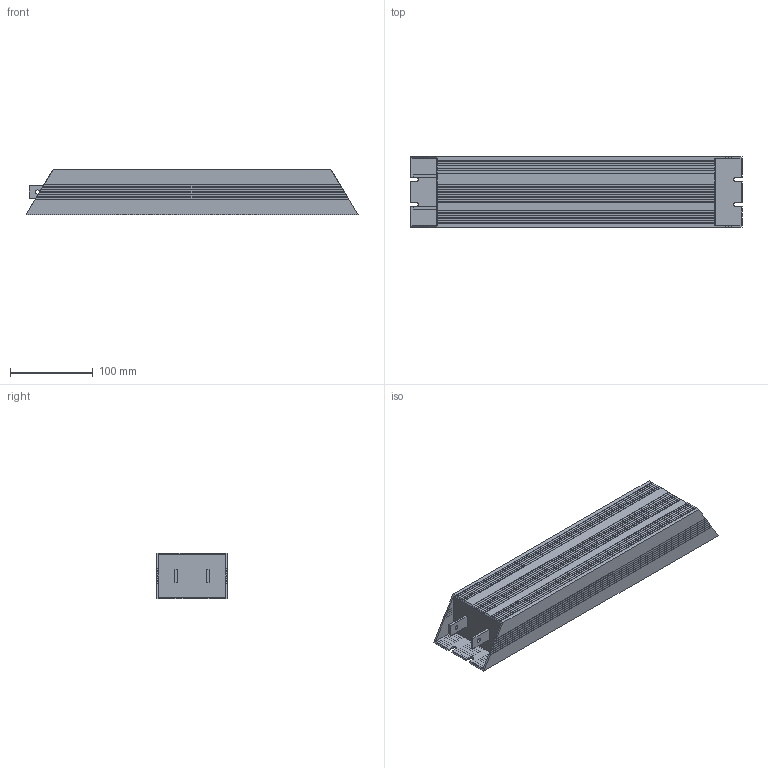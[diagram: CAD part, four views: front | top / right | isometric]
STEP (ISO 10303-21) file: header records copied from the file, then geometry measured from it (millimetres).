
FILE_DESCRIPTION (( 'STEP AP203' ), '1' );
FILE_NAME ('Ðåçèñòîð òîðìîçíîé _ IBRA-40-2500-IP54.STEP', '2025-03-26T12:54:55', ( '' ), ( '' ), 'SwSTEP 2.0', 'SolidWorks 2021', '' );
FILE_SCHEMA (( 'CONFIG_CONTROL_DESIGN' ));
Length unit declared in the file: millimetre
Products named in the file (1): Ðåçèñòîð òîðìîçíîé _ IBRA-40-2500-IP54
Bounding box: 400 x 85 x 55 mm (x, y, z)
Volume: 1581756.5 mm3; surface area: 166233.1 mm2
Topology: 1 solids, 1 shells, 280 faces, 828 edges, 552 vertices
Faces by surface type: plane 196, cylinder 84
Entity records: 9257 total; most frequent: CARTESIAN_POINT 2105, ORIENTED_EDGE 1656, DIRECTION 1262, EDGE_CURVE 828, LINE 660, VECTOR 660, VERTEX_POINT 552, AXIS2_PLACEMENT_3D 301
